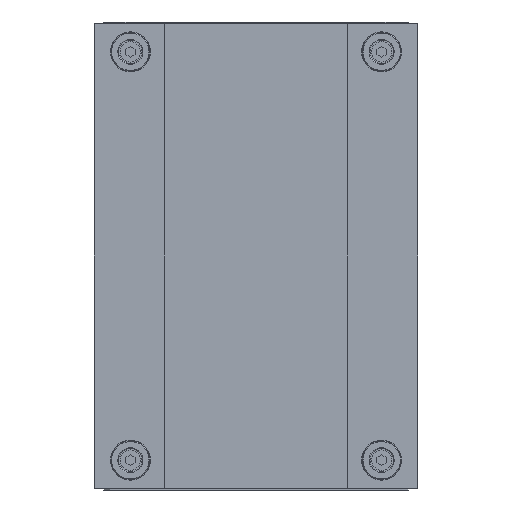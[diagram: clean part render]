
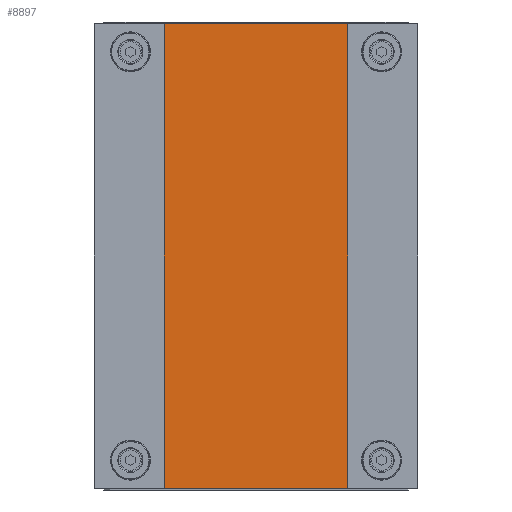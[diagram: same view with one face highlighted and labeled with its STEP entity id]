
A CAD part, front view. The second image highlights one B-rep face of the part: STEP entity #8897.
In plain terms, the highlighted planar face has unit normal (0, -1, 0).
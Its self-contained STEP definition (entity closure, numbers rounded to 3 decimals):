
#199 = LINE ( 'NONE', #200, #201 ) ;
#200 = CARTESIAN_POINT ( 'NONE',  ( -63., -20., 148. ) ) ;
#201 = VECTOR ( 'NONE', #202, 1000. ) ;
#202 = DIRECTION ( 'NONE',  ( 0., 0., -1. ) ) ;
#336 = ORIENTED_EDGE ( 'NONE', *, *, #626, .F. ) ;
#363 = CARTESIAN_POINT ( 'NONE',  ( -63., -20., 148. ) ) ;
#379 = LINE ( 'NONE', #380, #381 ) ;
#380 = CARTESIAN_POINT ( 'NONE',  ( 63., -20., 148. ) ) ;
#381 = VECTOR ( 'NONE', #382, 1000. ) ;
#382 = DIRECTION ( 'NONE',  ( 0., 0., -1. ) ) ;
#626 = EDGE_CURVE ( 'NONE', #8421, #8238, #8928, .T. ) ;
#1092 = ORIENTED_EDGE ( 'NONE', *, *, #8347, .T. ) ;
#1567 = FACE_OUTER_BOUND ( 'NONE', #9206, .T. ) ;
#1568 = PLANE ( 'NONE',  #1569 ) ;
#1569 = AXIS2_PLACEMENT_3D ( 'NONE', #1570, #1571, #1572 ) ;
#1570 = CARTESIAN_POINT ( 'NONE',  ( 63., -20., 148. ) ) ;
#1571 = DIRECTION ( 'NONE',  ( 0., 1., 0. ) ) ;
#1572 = DIRECTION ( 'NONE',  ( -1., 0., 0. ) ) ;
#2355 = LINE ( 'NONE', #2356, #2357 ) ;
#2356 = CARTESIAN_POINT ( 'NONE',  ( 63., -20., -148. ) ) ;
#2357 = VECTOR ( 'NONE', #2359, 1000. ) ;
#2359 = DIRECTION ( 'NONE',  ( 1., 0., 0. ) ) ;
#3614 = CARTESIAN_POINT ( 'NONE',  ( 63., -20., -148. ) ) ;
#6934 = VERTEX_POINT ( 'NONE', #3614 ) ;
#8109 = VERTEX_POINT ( 'NONE', #10177 ) ;
#8238 = VERTEX_POINT ( 'NONE', #10512 ) ;
#8347 = EDGE_CURVE ( 'NONE', #8421, #8109, #199, .T. ) ;
#8421 = VERTEX_POINT ( 'NONE', #363 ) ;
#8426 = EDGE_CURVE ( 'NONE', #8238, #6934, #379, .T. ) ;
#8897 = ADVANCED_FACE ( 'NONE', ( #1567 ), #1568, .F. ) ;
#8928 = LINE ( 'NONE', #8929, #8930 ) ;
#8929 = CARTESIAN_POINT ( 'NONE',  ( 63., -20., 148. ) ) ;
#8930 = VECTOR ( 'NONE', #8931, 1000. ) ;
#8931 = DIRECTION ( 'NONE',  ( 1., 0., 0. ) ) ;
#9206 = EDGE_LOOP ( 'NONE', ( #9661, #10478, #336, #1092 ) ) ;
#9661 = ORIENTED_EDGE ( 'NONE', *, *, #9989, .T. ) ;
#9989 = EDGE_CURVE ( 'NONE', #8109, #6934, #2355, .T. ) ;
#10177 = CARTESIAN_POINT ( 'NONE',  ( -63., -20., -148. ) ) ;
#10478 = ORIENTED_EDGE ( 'NONE', *, *, #8426, .F. ) ;
#10512 = CARTESIAN_POINT ( 'NONE',  ( 63., -20., 148. ) ) ;
